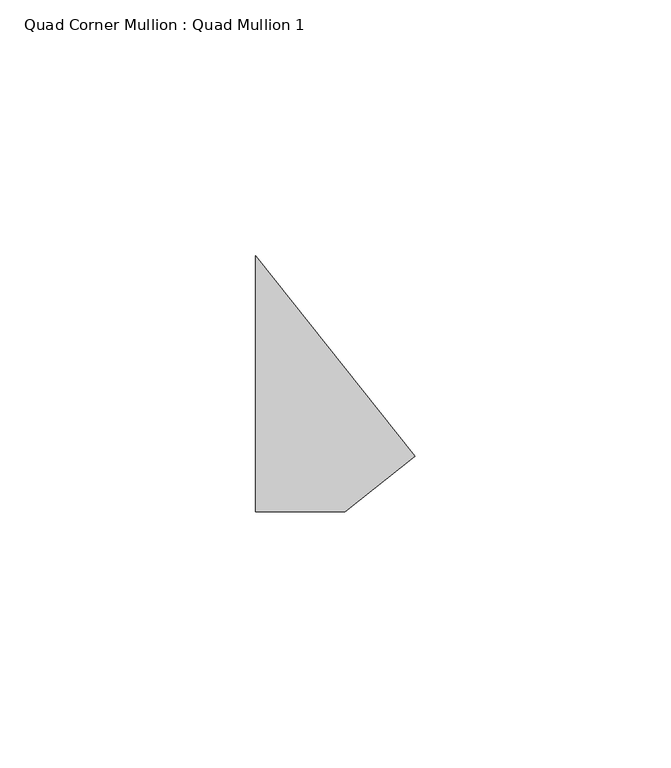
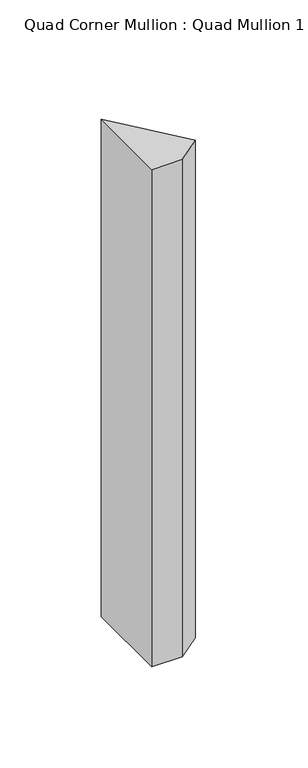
"""IFC4 building model written with IfcOpenShell, lengths in millimetres: member geometry, Quad Corner Mullion : Quad Mullion 1."""

from ifc_helpers import new_model, si_unit, frame, origin, place, context, project, spatial, polyline, outline, extrude, source, transform, mapped, element, save


def quad_corner_mullion_quad_mullion_1_f85ca69c(model_context):
    return source(origin(), model_context, "Body", "SweptSolid", [
        extrude(outline(polyline([(22.4169637, -14.1035695), (8.7424787, -25.0), (-8.7424787, -25.0), (-8.7424787, 25.0), (22.4169637, -14.1035695)])), frame((0.0, 0.0, -300.0), z_axis=(0.0, 0.0, 1.0), x_axis=(1.0, 0.0, 0.0)), (0.0, 0.0, 1.0), 300.0),
    ])


if __name__ == "__main__":
    model = new_model("IFC4")
    model_context = context("Model", 3, world=origin())
    ifc_project = project(units=[si_unit("LENGTHUNIT", "METRE", prefix="MILLI")], contexts=[model_context])
    site = spatial("IfcSite", under=ifc_project)
    building = spatial("IfcBuilding", under=site)
    placement = place(None, origin())
    quad_corner_mullion_quad_mullion_1_shape = quad_corner_mullion_quad_mullion_1_f85ca69c(model_context)
    element("IfcMember", 1, ObjectType="Quad Corner Mullion : Quad Mullion 1", at=placement, inside=building, context=model_context, shape_type="MappedRepresentation", body=[
        mapped(quad_corner_mullion_quad_mullion_1_shape, transform((0.0, 0.0, 0.0), x_axis=(1.0, 0.0, 0.0), y_axis=(0.0, 1.0, 0.0), z_axis=(0.0, 0.0, 1.0))),
    ])
    save(model, "model.ifc")
